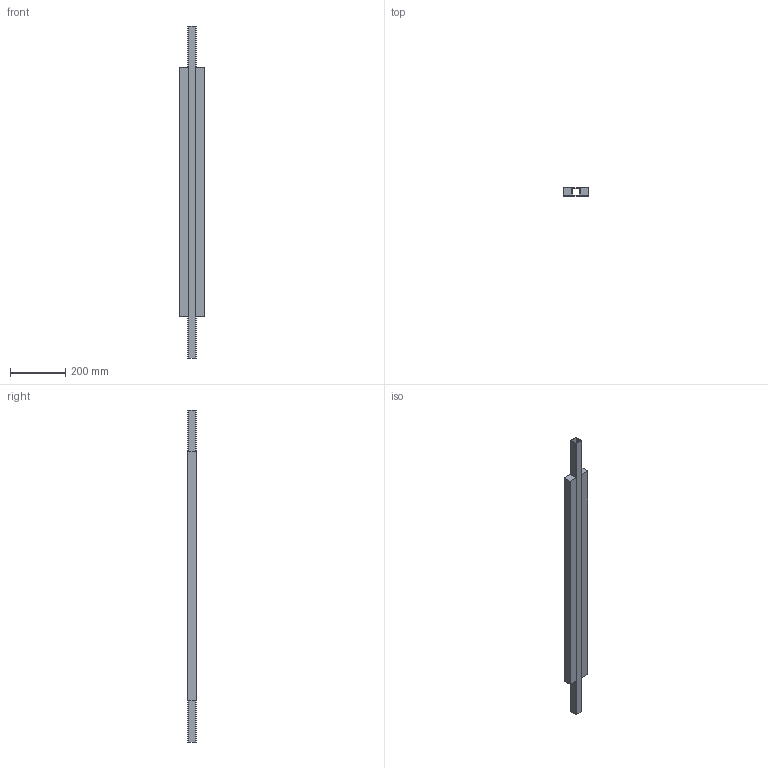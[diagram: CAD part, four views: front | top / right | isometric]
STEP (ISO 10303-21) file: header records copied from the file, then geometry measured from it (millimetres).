
FILE_DESCRIPTION (( 'STEP AP214' ), '1' );
FILE_NAME ('0006643_0_00.step', '2018-07-12T10:10:07', ( '' ), ( '' ), 'SwSTEP 2.0', 'SolidWorks 2018', '' );
FILE_SCHEMA (( 'AUTOMOTIVE_DESIGN' ));
Length unit declared in the file: millimetre
Products named in the file (3): 0006643_0_01_2 lame L=900; 0006643_0_00; 0006643_0_02_2 lame L=900
Assembly tree (2 placements, depth 2):
  0006643_0_00
    0006643_0_01_2 lame L=900
    0006643_0_02_2 lame L=900
Bounding box: 90 x 30 x 1200 mm (x, y, z)
Volume: 2006482.3 mm3; surface area: 490232.1 mm2
Topology: 3 solids, 3 shells, 30 faces, 72 edges, 48 vertices
Faces by surface type: plane 22, cylinder 8
Entity records: 1149 total; most frequent: DIRECTION 158, CARTESIAN_POINT 155, ORIENTED_EDGE 144, EDGE_CURVE 72, VECTOR 56, LINE 56, AXIS2_PLACEMENT_3D 51, VERTEX_POINT 48
